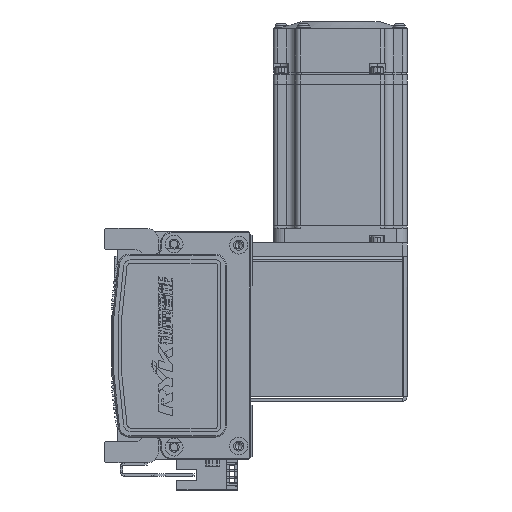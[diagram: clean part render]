
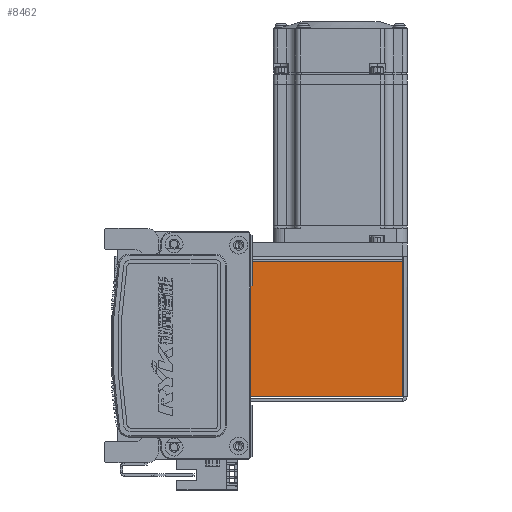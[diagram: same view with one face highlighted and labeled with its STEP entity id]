
A CAD part, left-side view. The second image highlights one B-rep face of the part: STEP entity #8462.
In plain terms, the highlighted planar face has unit normal (-1, 0, 0) as drawn and (0, 0, 1) by its records, which use the part's own axes.
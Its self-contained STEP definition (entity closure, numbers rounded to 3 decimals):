
#2292 = CARTESIAN_POINT ( 'NONE',  ( 30.263, 0.737, 35. ) ) ;
#2428 = DIRECTION ( 'NONE',  ( 0., 1., 0. ) ) ;
#3988 = LINE ( 'NONE', #34841, #53045 ) ;
#8462 = ADVANCED_FACE ( 'NONE', ( #70472 ), #65377, .F. ) ;
#9339 = LINE ( 'NONE', #2292, #17286 ) ;
#12772 = EDGE_CURVE ( 'NONE', #13404, #49697, #3988, .T. ) ;
#13368 = VERTEX_POINT ( 'NONE', #16813 ) ;
#13404 = VERTEX_POINT ( 'NONE', #33188 ) ;
#14052 = LINE ( 'NONE', #28641, #44764 ) ;
#15244 = VECTOR ( 'NONE', #2428, 1000. ) ;
#16813 = CARTESIAN_POINT ( 'NONE',  ( 30.263, 0.737, 35. ) ) ;
#17286 = VECTOR ( 'NONE', #41444, 1000. ) ;
#18733 = CARTESIAN_POINT ( 'NONE',  ( -30.293, 0.737, 35. ) ) ;
#19079 = CARTESIAN_POINT ( 'NONE',  ( -30.293, 0., 35. ) ) ;
#28641 = CARTESIAN_POINT ( 'NONE',  ( -32.5, 0.737, 35. ) ) ;
#32755 = EDGE_CURVE ( 'NONE', #13368, #41151, #14052, .T. ) ;
#33188 = CARTESIAN_POINT ( 'NONE',  ( 30.263, 72.5, 35. ) ) ;
#33679 = LINE ( 'NONE', #19079, #15244 ) ;
#34841 = CARTESIAN_POINT ( 'NONE',  ( 0., 72.5, 35. ) ) ;
#37170 = ORIENTED_EDGE ( 'NONE', *, *, #12772, .T. ) ;
#39727 = ORIENTED_EDGE ( 'NONE', *, *, #39886, .T. ) ;
#39886 = EDGE_CURVE ( 'NONE', #13368, #13404, #9339, .T. ) ;
#41151 = VERTEX_POINT ( 'NONE', #18733 ) ;
#41444 = DIRECTION ( 'NONE',  ( 0., 1., 0. ) ) ;
#41967 = ORIENTED_EDGE ( 'NONE', *, *, #32755, .F. ) ;
#44764 = VECTOR ( 'NONE', #56102, 1000. ) ;
#48507 = CARTESIAN_POINT ( 'NONE',  ( 0., 0., 35. ) ) ;
#49697 = VERTEX_POINT ( 'NONE', #56387 ) ;
#53045 = VECTOR ( 'NONE', #62271, 1000. ) ;
#54411 = DIRECTION ( 'NONE',  ( -1., 0., 0. ) ) ;
#55017 = AXIS2_PLACEMENT_3D ( 'NONE', #48507, #65881, #54411 ) ;
#56102 = DIRECTION ( 'NONE',  ( -1., 0., 0. ) ) ;
#56387 = CARTESIAN_POINT ( 'NONE',  ( -30.293, 72.5, 35. ) ) ;
#58316 = EDGE_CURVE ( 'NONE', #41151, #49697, #33679, .T. ) ;
#62271 = DIRECTION ( 'NONE',  ( -1., 0., 0. ) ) ;
#63435 = ORIENTED_EDGE ( 'NONE', *, *, #58316, .F. ) ;
#65377 = PLANE ( 'NONE',  #55017 ) ;
#65881 = DIRECTION ( 'NONE',  ( 0., 0., -1. ) ) ;
#70099 = EDGE_LOOP ( 'NONE', ( #39727, #37170, #63435, #41967 ) ) ;
#70472 = FACE_OUTER_BOUND ( 'NONE', #70099, .T. ) ;
